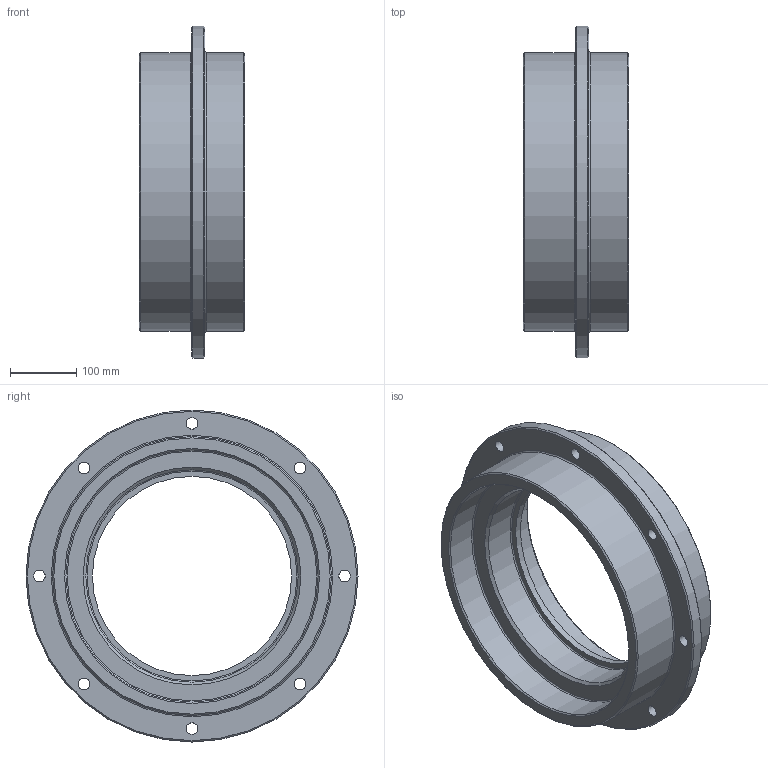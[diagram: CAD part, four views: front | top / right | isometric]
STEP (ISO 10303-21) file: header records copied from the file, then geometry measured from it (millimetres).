
FILE_DESCRIPTION(/* description */ (''),/* implementation_level */ '2;1');
FILE_NAME(/* name */ 'C:\Users\jbart\OneDrive\Plocha\Nová složka\3D modely - stp\Pouzdro II.stp',/* time_stamp */ '2025-05-15T16:50:19+02:00',/* author */ ('jbart'),/* organization */ (''),/* preprocessor_version */ 'ST-DEVELOPER v18.1',/* originating_system */ 'Autodesk Inventor 2022',/* authorisation */ '');
FILE_SCHEMA (('AUTOMOTIVE_DESIGN { 1 0 10303 214 3 1 1 }'));
Length unit declared in the file: millimetre
Products named in the file (1): Pouzdro II
Bounding box: 159 x 500 x 500 mm (x, y, z)
Volume: 7788214.1 mm3; surface area: 627305.4 mm2
Topology: 1 solids, 1 shells, 34 faces, 81 edges, 54 vertices
Faces by surface type: cylinder 15, plane 7, cone 7, torus 5
Full cylindrical faces by diameter (mm): 17.5 x8, 300 x1, 320 x1, 360 x1, 380 x1, 420 x2, 500 x1
Entity records: 1101 total; most frequent: DIRECTION 210, CARTESIAN_POINT 170, ORIENTED_EDGE 162, AXIS2_PLACEMENT_3D 94, EDGE_CURVE 81, CIRCLE 59, EDGE_LOOP 57, VERTEX_POINT 54
